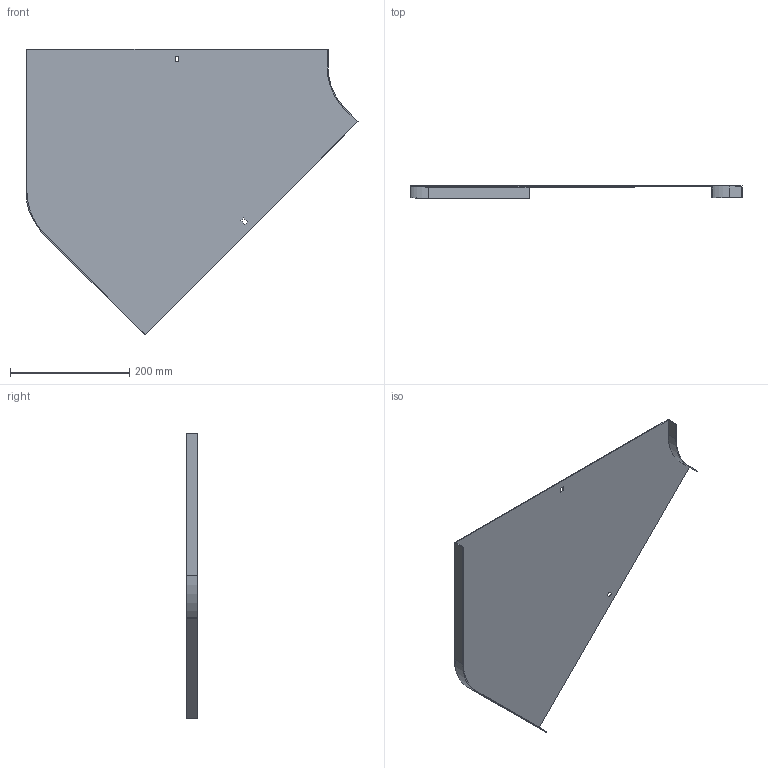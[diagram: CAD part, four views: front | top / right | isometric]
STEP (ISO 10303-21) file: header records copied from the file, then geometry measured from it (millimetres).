
FILE_DESCRIPTION (( 'STEP AP214' ), '1' );
FILE_NAME ('11G1P500.step', '2025-02-21T12:46:07', ( '' ), ( '' ), 'SwSTEP 2.0', 'SolidWorks 2023', '' );
FILE_SCHEMA (( 'AUTOMOTIVE_DESIGN' ));
Length unit declared in the file: millimetre
Products named in the file (1): 11G1P500
Bounding box: 557.21 x 20 x 479.72 mm (x, y, z)
Volume: 286821.6 mm3; surface area: 385196.9 mm2
Topology: 1 solids, 1 shells, 26 faces, 72 edges, 48 vertices
Faces by surface type: plane 22, cylinder 4
Entity records: 855 total; most frequent: CARTESIAN_POINT 147, ORIENTED_EDGE 144, DIRECTION 134, EDGE_CURVE 72, LINE 64, VECTOR 64, VERTEX_POINT 48, AXIS2_PLACEMENT_3D 35
